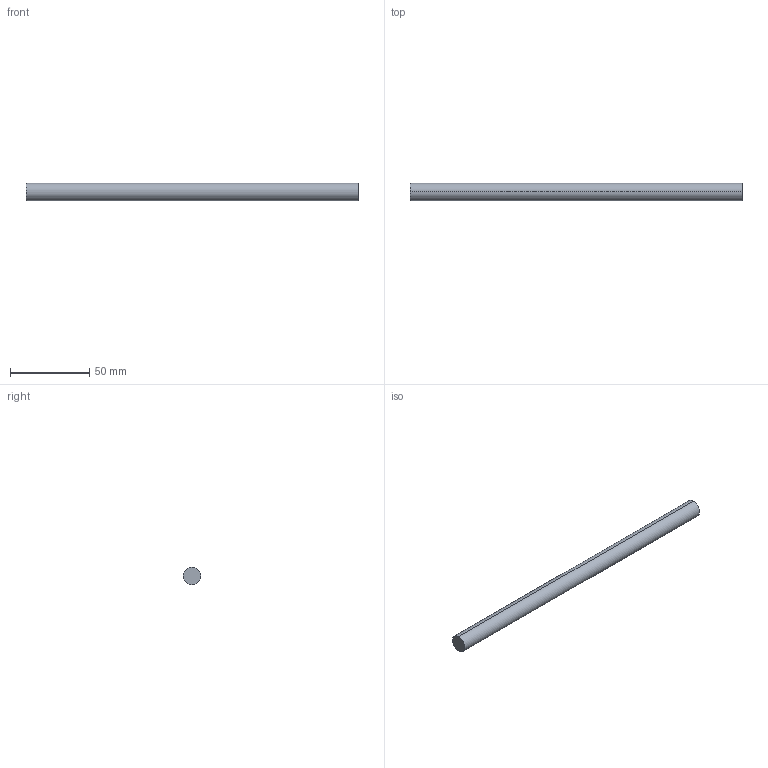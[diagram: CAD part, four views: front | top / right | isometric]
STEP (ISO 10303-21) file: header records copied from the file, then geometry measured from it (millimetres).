
FILE_DESCRIPTION (( 'STEP AP214' ), '1' );
FILE_NAME ('Querreling_Frontblende_Innenlade_KS19_KAB-300.step', '2010-09-22T15:05:31', ( 'grass' ), ( '' ), 'SwSTEP 2.0', 'SolidWorks 2010', '' );
FILE_SCHEMA (( 'AUTOMOTIVE_DESIGN' ));
Length unit declared in the file: millimetre
Products named in the file (1): Querreling_Frontblende_Innenlade_KS19_KAB-300
Bounding box: 209 x 11 x 11 mm (x, y, z)
Volume: 19861.9 mm3; surface area: 7412.6 mm2
Topology: 1 solids, 1 shells, 4 faces, 6 edges, 4 vertices
Faces by surface type: cylinder 2, plane 2
Entity records: 128 total; most frequent: DIRECTION 20, CARTESIAN_POINT 15, ORIENTED_EDGE 12, AXIS2_PLACEMENT_3D 9, EDGE_CURVE 6, EDGE_LOOP 4, VERTEX_POINT 4, ADVANCED_FACE 4
